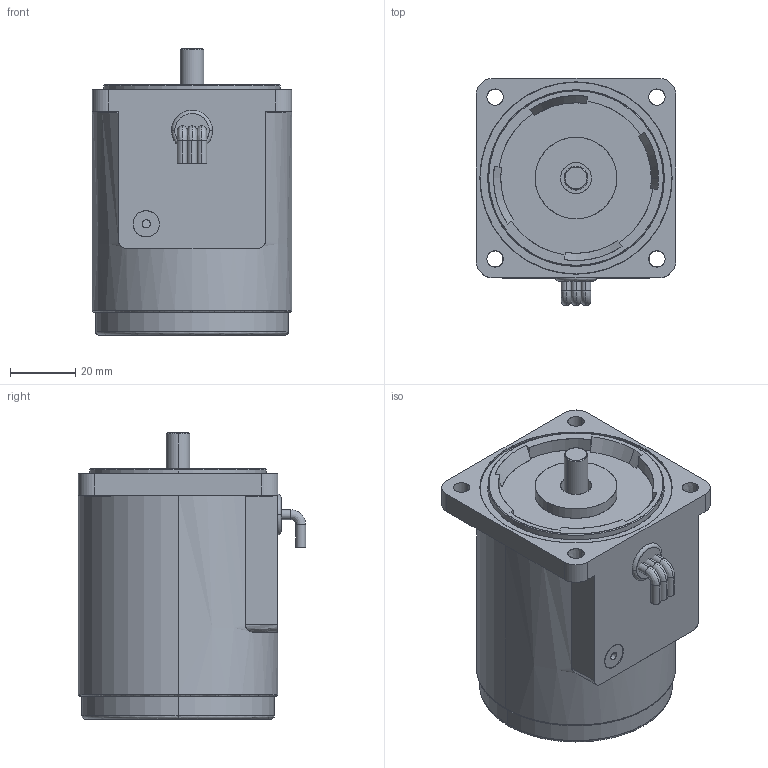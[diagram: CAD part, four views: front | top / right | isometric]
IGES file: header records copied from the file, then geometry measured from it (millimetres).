
Start section: SolidWorks IGES file using analytic representation for surfaces
Bounding box: 61 x 69.5 x 87.5 mm (x, y, z)
Surface area: 44985.7 mm2 (no closed solid volume)
Topology: 0 solids, 0 shells, 149 faces, 2870 edges, 2870 vertices
Faces by surface type: bspline 75, revolution 74
